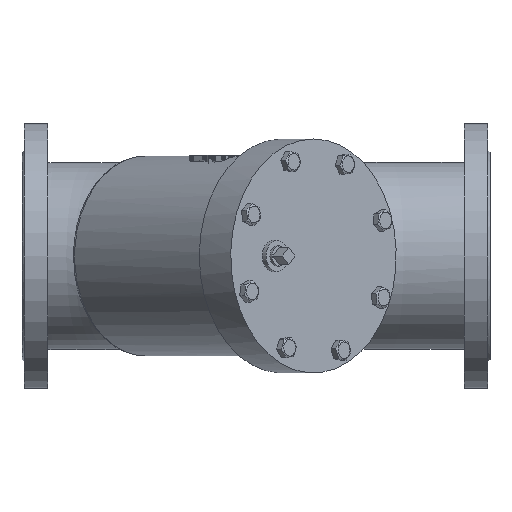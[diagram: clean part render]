
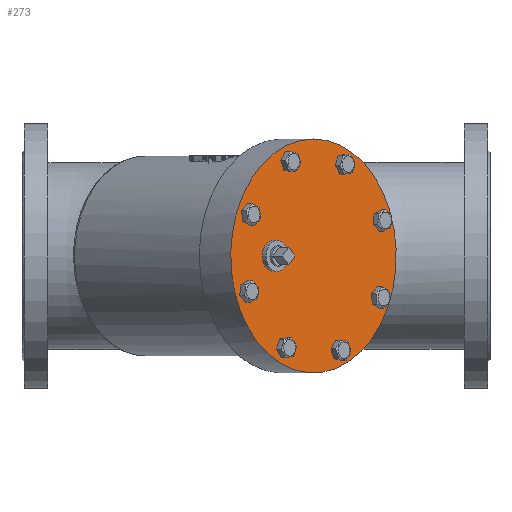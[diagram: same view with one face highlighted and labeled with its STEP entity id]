
A CAD part, front view. The second image highlights one B-rep face of the part: STEP entity #273.
In plain terms, the highlighted planar face has unit normal (0.707, -0.707, 0).
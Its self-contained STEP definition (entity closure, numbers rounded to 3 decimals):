
#273=ADVANCED_FACE('',(#9194,#9196,#9198,#9200,#9202,#9204,#9206,#9208,#9210,#9212),
#9214,.F.);
#9194=FACE_BOUND('',#9195,.T.);
#9195=EDGE_LOOP('',(#17116,#17117));
#9196=FACE_BOUND('',#9197,.T.);
#9197=EDGE_LOOP('',(#17118,#17119));
#9198=FACE_BOUND('',#9199,.T.);
#9199=EDGE_LOOP('',(#17120,#17121));
#9200=FACE_BOUND('',#9201,.T.);
#9201=EDGE_LOOP('',(#17122,#17123));
#9202=FACE_BOUND('',#9203,.T.);
#9203=EDGE_LOOP('',(#17124,#17125));
#9204=FACE_BOUND('',#9205,.T.);
#9205=EDGE_LOOP('',(#17126,#17127));
#9206=FACE_BOUND('',#9207,.T.);
#9207=EDGE_LOOP('',(#17128,#17129));
#9208=FACE_BOUND('',#9209,.T.);
#9209=EDGE_LOOP('',(#17130,#17131));
#9210=FACE_BOUND('',#9211,.T.);
#9211=EDGE_LOOP('',(#17132,#17133));
#9212=FACE_BOUND('',#9213,.T.);
#9213=EDGE_LOOP('',(#17134));
#9214=PLANE('',#9215);
#9215=AXIS2_PLACEMENT_3D('',#9216,#9217,#9218);
#9216=CARTESIAN_POINT('',(5648.103,-977.683,0.));
#9217=DIRECTION('',(-0.707,0.707,0.));
#9218=DIRECTION('',(0.,0.,1.));
#17116=ORIENTED_EDGE('',*,*,#22837,.F.);
#17117=ORIENTED_EDGE('',*,*,#22838,.F.);
#17118=ORIENTED_EDGE('',*,*,#22855,.F.);
#17119=ORIENTED_EDGE('',*,*,#22856,.F.);
#17120=ORIENTED_EDGE('',*,*,#22868,.F.);
#17121=ORIENTED_EDGE('',*,*,#22867,.F.);
#17122=ORIENTED_EDGE('',*,*,#22863,.F.);
#17123=ORIENTED_EDGE('',*,*,#22864,.F.);
#17124=ORIENTED_EDGE('',*,*,#22875,.F.);
#17125=ORIENTED_EDGE('',*,*,#22876,.F.);
#17126=ORIENTED_EDGE('',*,*,#22871,.F.);
#17127=ORIENTED_EDGE('',*,*,#22872,.F.);
#17128=ORIENTED_EDGE('',*,*,#22882,.F.);
#17129=ORIENTED_EDGE('',*,*,#22881,.F.);
#17130=ORIENTED_EDGE('',*,*,#22860,.F.);
#17131=ORIENTED_EDGE('',*,*,#22859,.F.);
#17132=ORIENTED_EDGE('',*,*,#22879,.F.);
#17133=ORIENTED_EDGE('',*,*,#22880,.F.);
#17134=ORIENTED_EDGE('',*,*,#22899,.F.);
#22837=EDGE_CURVE('',#26603,#26604,#26605,.T.);
#22838=EDGE_CURVE('',#26604,#26603,#26606,.T.);
#22855=EDGE_CURVE('',#26631,#26632,#26633,.T.);
#22856=EDGE_CURVE('',#26632,#26631,#26634,.T.);
#22859=EDGE_CURVE('',#26639,#26640,#26641,.T.);
#22860=EDGE_CURVE('',#26640,#26639,#26642,.T.);
#22863=EDGE_CURVE('',#26647,#26648,#26649,.T.);
#22864=EDGE_CURVE('',#26648,#26647,#26650,.T.);
#22867=EDGE_CURVE('',#26655,#26656,#26657,.T.);
#22868=EDGE_CURVE('',#26656,#26655,#26658,.T.);
#22871=EDGE_CURVE('',#26663,#26664,#26665,.T.);
#22872=EDGE_CURVE('',#26664,#26663,#26666,.T.);
#22875=EDGE_CURVE('',#26671,#26672,#26673,.T.);
#22876=EDGE_CURVE('',#26672,#26671,#26674,.T.);
#22879=EDGE_CURVE('',#26679,#26680,#26681,.T.);
#22880=EDGE_CURVE('',#26680,#26679,#26682,.T.);
#22881=EDGE_CURVE('',#26683,#26684,#26685,.T.);
#22882=EDGE_CURVE('',#26684,#26683,#26686,.T.);
#22899=EDGE_CURVE('',#26711,#26711,#26712,.T.);
#26603=VERTEX_POINT('',#34652);
#26604=VERTEX_POINT('',#34653);
#26605=CIRCLE('',#34654,150.);
#26606=CIRCLE('',#34658,150.);
#26631=VERTEX_POINT('',#34851);
#26632=VERTEX_POINT('',#34852);
#26633=CIRCLE('',#34853,9.991);
#26634=CIRCLE('',#34857,9.991);
#26639=VERTEX_POINT('',#34871);
#26640=VERTEX_POINT('',#34872);
#26641=CIRCLE('',#34873,9.991);
#26642=CIRCLE('',#34877,9.991);
#26647=VERTEX_POINT('',#34891);
#26648=VERTEX_POINT('',#34892);
#26649=CIRCLE('',#34893,9.991);
#26650=CIRCLE('',#34897,9.991);
#26655=VERTEX_POINT('',#34911);
#26656=VERTEX_POINT('',#34912);
#26657=CIRCLE('',#34913,9.991);
#26658=CIRCLE('',#34917,9.991);
#26663=VERTEX_POINT('',#34931);
#26664=VERTEX_POINT('',#34932);
#26665=CIRCLE('',#34933,9.991);
#26666=CIRCLE('',#34937,9.991);
#26671=VERTEX_POINT('',#34951);
#26672=VERTEX_POINT('',#34952);
#26673=CIRCLE('',#34953,9.991);
#26674=CIRCLE('',#34957,9.991);
#26679=VERTEX_POINT('',#34971);
#26680=VERTEX_POINT('',#34972);
#26681=CIRCLE('',#34973,9.991);
#26682=CIRCLE('',#34977,9.991);
#26683=VERTEX_POINT('',#34981);
#26684=VERTEX_POINT('',#34982);
#26685=CIRCLE('',#34983,9.991);
#26686=CIRCLE('',#34987,9.991);
#26711=VERTEX_POINT('',#35299);
#26712=CIRCLE('',#35300,20.);
#34652=CARTESIAN_POINT('',(5737.01,-888.776,81.797));
#34653=CARTESIAN_POINT('',(5648.103,-977.683,150.));
#34654=AXIS2_PLACEMENT_3D('',#34655,#34656,#34657);
#34655=CARTESIAN_POINT('',(5648.103,-977.683,0.));
#34656=DIRECTION('',(-0.707,0.707,0.));
#34657=DIRECTION('',(0.593,0.593,0.545));
#34658=AXIS2_PLACEMENT_3D('',#34659,#34660,#34661);
#34659=CARTESIAN_POINT('',(5648.103,-977.683,0.));
#34660=DIRECTION('',(-0.707,0.707,0.));
#34661=DIRECTION('',(0.,0.,1.));
#34851=CARTESIAN_POINT('',(5618.214,-1007.572,130.306));
#34852=CARTESIAN_POINT('',(5609.76,-1016.026,115.947));
#34853=AXIS2_PLACEMENT_3D('',#34854,#34855,#34856);
#34854=CARTESIAN_POINT('',(5615.912,-1009.874,120.86));
#34855=DIRECTION('',(0.707,-0.707,0.));
#34856=DIRECTION('',(0.23,0.23,0.945));
#34857=AXIS2_PLACEMENT_3D('',#34858,#34859,#34860);
#34858=CARTESIAN_POINT('',(5615.912,-1009.874,120.86));
#34859=DIRECTION('',(0.707,-0.707,0.));
#34860=DIRECTION('',(-0.616,-0.616,-0.492));
#34871=CARTESIAN_POINT('',(5568.776,-1057.01,61.632));
#34872=CARTESIAN_POINT('',(5558.16,-1067.626,50.322));
#34873=AXIS2_PLACEMENT_3D('',#34874,#34875,#34876);
#34874=CARTESIAN_POINT('',(5564.91,-1060.876,53.27));
#34875=DIRECTION('',(0.707,-0.707,0.));
#34876=DIRECTION('',(0.387,0.387,0.837));
#34877=AXIS2_PLACEMENT_3D('',#34878,#34879,#34880);
#34878=CARTESIAN_POINT('',(5564.91,-1060.876,53.27));
#34879=DIRECTION('',(0.707,-0.707,0.));
#34880=DIRECTION('',(-0.676,-0.676,-0.295));
#34891=CARTESIAN_POINT('',(5692.121,-933.665,122.029));
#34892=CARTESIAN_POINT('',(5678.964,-946.822,120.329));
#34893=AXIS2_PLACEMENT_3D('',#34894,#34895,#34896);
#34894=CARTESIAN_POINT('',(5685.77,-940.016,117.652));
#34895=DIRECTION('',(0.707,-0.707,0.));
#34896=DIRECTION('',(0.636,0.636,0.438));
#34897=AXIS2_PLACEMENT_3D('',#34898,#34899,#34900);
#34898=CARTESIAN_POINT('',(5685.77,-940.016,117.652));
#34899=DIRECTION('',(0.707,-0.707,0.));
#34900=DIRECTION('',(-0.681,-0.681,0.268));
#34911=CARTESIAN_POINT('',(5561.194,-1064.592,-35.746));
#34912=CARTESIAN_POINT('',(5559.342,-1066.444,-54.359));
#34913=AXIS2_PLACEMENT_3D('',#34914,#34915,#34916);
#34914=CARTESIAN_POINT('',(5562.641,-1063.145,-45.525));
#34915=DIRECTION('',(0.707,-0.707,0.));
#34916=DIRECTION('',(-0.145,-0.145,0.979));
#34917=AXIS2_PLACEMENT_3D('',#34918,#34919,#34920);
#34918=CARTESIAN_POINT('',(5562.641,-1063.145,-45.525));
#34919=DIRECTION('',(0.707,-0.707,0.));
#34920=DIRECTION('',(-0.33,-0.33,-0.884));
#34931=CARTESIAN_POINT('',(5740.243,-885.543,42.269));
#34932=CARTESIAN_POINT('',(5730.09,-895.696,54.224));
#34933=AXIS2_PLACEMENT_3D('',#34934,#34935,#34936);
#34934=CARTESIAN_POINT('',(5733.564,-892.222,45.525));
#34935=DIRECTION('',(0.707,-0.707,0.));
#34936=DIRECTION('',(0.668,0.668,-0.326));
#34937=AXIS2_PLACEMENT_3D('',#34938,#34939,#34940);
#34938=CARTESIAN_POINT('',(5733.564,-892.222,45.525));
#34939=DIRECTION('',(0.707,-0.707,0.));
#34940=DIRECTION('',(-0.348,-0.348,0.871));
#34951=CARTESIAN_POINT('',(5612.519,-1013.267,-127.198));
#34952=CARTESIAN_POINT('',(5604.522,-1021.264,-112.185));
#34953=AXIS2_PLACEMENT_3D('',#34954,#34955,#34956);
#34954=CARTESIAN_POINT('',(5610.435,-1015.351,-117.652));
#34955=DIRECTION('',(0.707,-0.707,0.));
#34956=DIRECTION('',(0.209,0.209,-0.955));
#34957=AXIS2_PLACEMENT_3D('',#34958,#34959,#34960);
#34958=CARTESIAN_POINT('',(5610.435,-1015.351,-117.652));
#34959=DIRECTION('',(0.707,-0.707,0.));
#34960=DIRECTION('',(-0.592,-0.592,0.547));
#34971=CARTESIAN_POINT('',(5734.39,-891.396,-62.252));
#34972=CARTESIAN_POINT('',(5733.188,-892.598,-43.645));
#34973=AXIS2_PLACEMENT_3D('',#34974,#34975,#34976);
#34974=CARTESIAN_POINT('',(5731.295,-894.491,-53.27));
#34975=DIRECTION('',(0.707,-0.707,0.));
#34976=DIRECTION('',(0.31,0.31,-0.899));
#34977=AXIS2_PLACEMENT_3D('',#34978,#34979,#34980);
#34978=CARTESIAN_POINT('',(5731.295,-894.491,-53.27));
#34979=DIRECTION('',(0.707,-0.707,0.));
#34980=DIRECTION('',(0.189,0.189,0.963));
#34981=CARTESIAN_POINT('',(5686.445,-939.341,-115.947));
#34982=CARTESIAN_POINT('',(5682.596,-943.19,-111.415));
#34983=AXIS2_PLACEMENT_3D('',#34984,#34985,#34986);
#34984=CARTESIAN_POINT('',(5680.293,-945.493,-120.86));
#34985=DIRECTION('',(0.707,-0.707,0.));
#34986=DIRECTION('',(0.616,0.616,0.492));
#34987=AXIS2_PLACEMENT_3D('',#34988,#34989,#34990);
#34988=CARTESIAN_POINT('',(5680.293,-945.493,-120.86));
#34989=DIRECTION('',(0.707,-0.707,0.));
#34990=DIRECTION('',(0.23,0.23,0.945));
#35299=CARTESIAN_POINT('',(5596.484,-1029.302,20.));
#35300=AXIS2_PLACEMENT_3D('',#35301,#35302,#35303);
#35301=CARTESIAN_POINT('',(5596.484,-1029.302,0.));
#35302=DIRECTION('',(0.707,-0.707,0.));
#35303=DIRECTION('',(0.,0.,1.));
